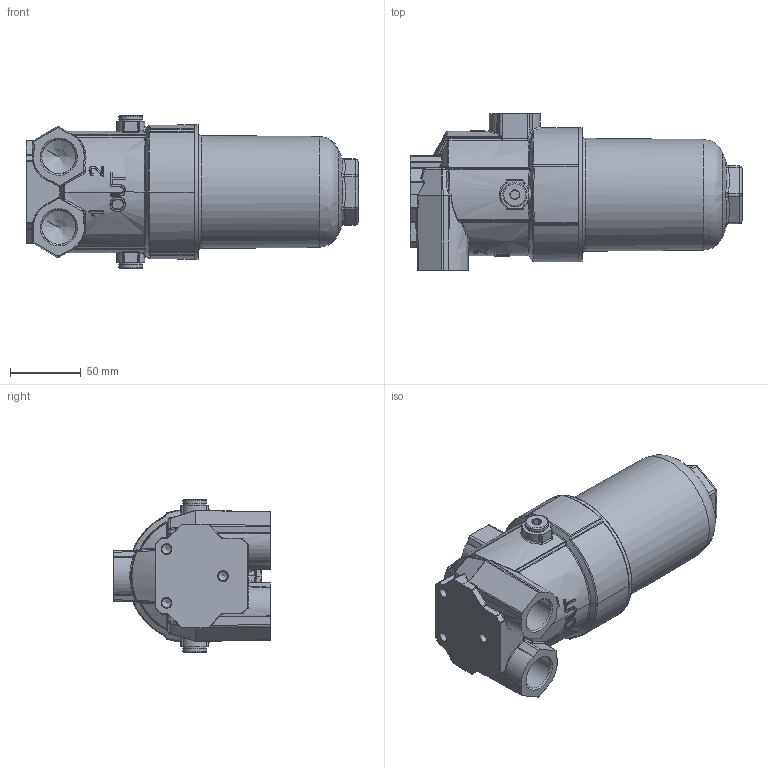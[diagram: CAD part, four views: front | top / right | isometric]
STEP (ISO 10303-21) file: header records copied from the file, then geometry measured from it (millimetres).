
FILE_DESCRIPTION((''),'2;1');
FILE_NAME('U:\Users\t.schleuter\E068.stp','2013-04-23T13:34:49',( 'User'),('SDRC'),'I-DEAS Master Series 9','UNIX','Yes');
FILE_SCHEMA(('AUTOMOTIVE_DESIGN { 1 0 10303 214 1 1 1 1 }'));
Length unit declared in the file: millimetre
Products named in the file (1): 27905701(297940)
Bounding box: 235 x 111 x 108.19 mm (x, y, z)
Volume: 1270244.8 mm3; surface area: 87736 mm2
Topology: 1 solids, 4 shells, 1394 faces, 3235 edges, 1740 vertices
Faces by surface type: bspline 1394
Entity records: 50824 total; most frequent: CARTESIAN_POINT 33342, ORIENTED_EDGE 6190, EDGE_CURVE 3095, B_SPLINE_CURVE_WITH_KNOTS 1794, VERTEX_POINT 1734, EDGE_LOOP 1423, FACE_OUTER_BOUND 1394, ADVANCED_FACE 1394
